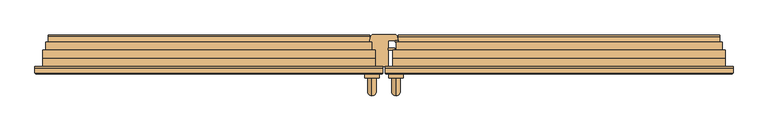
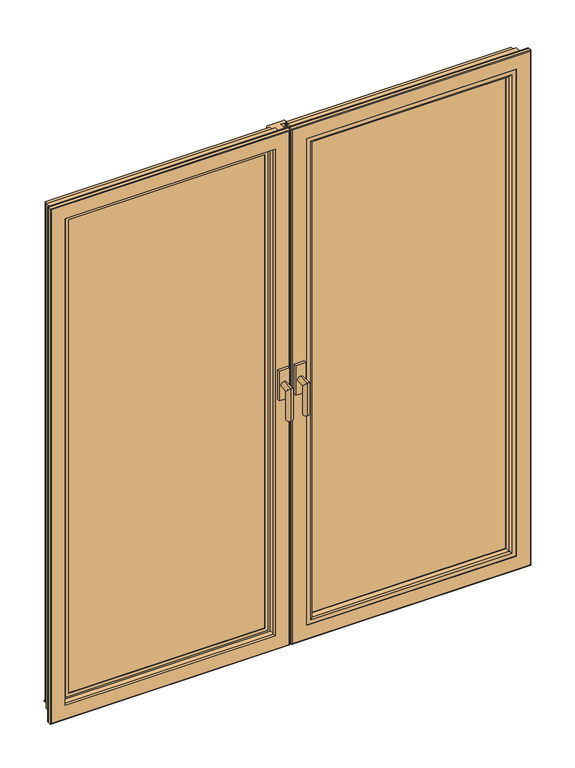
"""IFC4 building model written with IfcOpenShell, lengths in millimetres: door geometry, Doors_GEALAN_S9000_Double-Vent-Door : Doors_GEALAN_S9000_Double-Vent-Door."""

from ifc_helpers import new_model, si_unit, point, frame, frame_2d, origin, place, context, project, spatial, polyline, circle_curve, ellipse_curve, trimmed, segment, composite_curve, outline, extrude, source, transform, mapped, element, save
from ifc_brep_helpers import plane_surface, cylinder_surface, advanced_brep


def door_6dfe5dd6(model_context):
    return source(origin(), model_context, "Body", "SolidModel", [
        advanced_brep(
        [(31.0, -61.0, 1071.5), (31.0, -61.0, 1048.5), (31.0, -107.5, 1071.5), (31.0, -84.5, 1048.5), (31.0, -107.5, 943.0), (31.0, -84.5, 943.0)],
        [
            (0, 1, circle_curve(frame((31.0, -61.0, 1060.0), z_axis=(0.0, 1.0, 0.0), x_axis=(0.0, 0.0, -1.0)), 11.5)),
            (1, 0, circle_curve(frame((31.0, -61.0, 1060.0), z_axis=(0.0, 1.0, 0.0), x_axis=(0.0, 0.0, -1.0)), 11.5)),
            (0, 2),
            (2, 3, ellipse_curve(frame((31.0, -96.0, 1060.0), z_axis=(0.0, 0.7071067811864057, 0.7071067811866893), x_axis=(0.0, 0.7071067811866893, -0.7071067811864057)), 16.263456, 11.5)),
            (3, 1),
            (3, 2, ellipse_curve(frame((31.0, -96.0, 1060.0), z_axis=(0.0, 0.7071067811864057, 0.7071067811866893), x_axis=(0.0, 0.7071067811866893, -0.7071067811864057)), 16.263456, 11.5)),
            (4, 5, circle_curve(frame((31.0, -96.0, 943.0), z_axis=(0.0, 0.0, -1.0), x_axis=(0.0, 1.0, 0.0)), 11.5)),
            (5, 4, circle_curve(frame((31.0, -96.0, 943.0), z_axis=(0.0, 0.0, -1.0), x_axis=(0.0, 1.0, 0.0)), 11.5)),
            (2, 4),
            (5, 3),
        ],
        [
            plane_surface(frame((31.0, -61.0, 1060.0), z_axis=(0.0, 1.0, 0.0), x_axis=(1.0, 0.0, 0.0))),
            cylinder_surface(frame((31.0, -61.0, 1060.0), z_axis=(0.0, 1.0, 0.0), x_axis=(0.0, 0.0, -1.0)), 11.5),
            plane_surface(frame((31.0, -96.0, 943.0), z_axis=(0.0, 0.0, -1.0), x_axis=(1.0, 0.0, 0.0))),
            cylinder_surface(frame((31.0, -96.0, 1060.0), z_axis=(0.0, 0.0, 1.0), x_axis=(0.0, 1.0, 0.0)), 11.5),
        ],
        [
            (0, [[1, 2]]),
            (1, [[-1, 3, 4, 5]]),
            (1, [[-2, -5, 6, -3]]),
            (2, [[7, 8]]),
            (3, [[-4, 9, -8, 10]]),
            (3, [[-6, -10, -7, -9]]),
        ],
    ),
        extrude(outline(polyline([(49.5, -51.0), (49.5, -61.0), (12.5, -61.0), (12.5, -51.0), (49.5, -51.0)])), frame((0.0, 0.0, 1001.0), z_axis=(0.0, 0.0, 1.0), x_axis=(1.0, 0.0, 0.0)), (0.0, 0.0, 1.0), 118.0),
        advanced_brep(
        [(-31.0, -61.0, 1071.5), (-31.0, -61.0, 1048.5), (-31.0, -107.5, 1071.5), (-31.0, -84.5, 1048.5), (-31.0, -107.5, 943.0), (-31.0, -84.5, 943.0)],
        [
            (0, 1, circle_curve(frame((-31.0, -61.0, 1060.0), z_axis=(0.0, 1.0, 0.0), x_axis=(0.0, 0.0, -1.0)), 11.5)),
            (1, 0, circle_curve(frame((-31.0, -61.0, 1060.0), z_axis=(0.0, 1.0, 0.0), x_axis=(0.0, 0.0, -1.0)), 11.5)),
            (0, 2),
            (2, 3, ellipse_curve(frame((-31.0, -96.0, 1060.0), z_axis=(0.0, 0.7071067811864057, 0.7071067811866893), x_axis=(0.0, 0.7071067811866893, -0.7071067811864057)), 16.263456, 11.5)),
            (3, 1),
            (3, 2, ellipse_curve(frame((-31.0, -96.0, 1060.0), z_axis=(0.0, 0.7071067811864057, 0.7071067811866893), x_axis=(0.0, 0.7071067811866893, -0.7071067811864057)), 16.263456, 11.5)),
            (4, 5, circle_curve(frame((-31.0, -96.0, 943.0), z_axis=(0.0, 0.0, -1.0), x_axis=(0.0, 1.0, 0.0)), 11.5)),
            (5, 4, circle_curve(frame((-31.0, -96.0, 943.0), z_axis=(0.0, 0.0, -1.0), x_axis=(0.0, 1.0, 0.0)), 11.5)),
            (2, 4),
            (5, 3),
        ],
        [
            plane_surface(frame((-31.0, -61.0, 1060.0), z_axis=(0.0, 1.0, 0.0), x_axis=(1.0, 0.0, 0.0))),
            cylinder_surface(frame((-31.0, -61.0, 1060.0), z_axis=(0.0, 1.0, 0.0), x_axis=(0.0, 0.0, -1.0)), 11.5),
            plane_surface(frame((-31.0, -96.0, 943.0), z_axis=(0.0, 0.0, -1.0), x_axis=(1.0, 0.0, 0.0))),
            cylinder_surface(frame((-31.0, -96.0, 1060.0), z_axis=(0.0, 0.0, 1.0), x_axis=(0.0, 1.0, 0.0)), 11.5),
        ],
        [
            (0, [[1, 2]]),
            (1, [[-1, 3, 4, 5]]),
            (1, [[-2, -5, 6, -3]]),
            (2, [[7, 8]]),
            (3, [[-4, 9, -8, 10]]),
            (3, [[-6, -10, -7, -9]]),
        ],
    ),
        extrude(outline(polyline([(-12.5, -51.0), (-12.5, -61.0), (-49.5, -61.0), (-49.5, -51.0), (-12.5, -51.0)])), frame((0.0, 0.0, 1001.0), z_axis=(0.0, 0.0, 1.0), x_axis=(1.0, 0.0, 0.0)), (0.0, 0.0, 1.0), 118.0),
        extrude(outline(polyline([(64.0, 13.5), (839.0, 13.5), (839.0, -26.5), (64.0, -26.5), (64.0, 13.5)])), frame((0.0, 0.0, 72.9999998), z_axis=(0.0, 0.0, 1.0), x_axis=(1.0, 0.0, 0.0)), (0.0, 0.0, 1.0), 1916.0),
        extrude(outline(composite_curve([segment(trimmed(circle_curve(frame_2d((44.4032971, 32.7039134)), 4.9967036), [point((45.2682409, 37.6251855))], [point((49.4, 32.7011467))], False, "CARTESIAN"), True, "CONTINUOUS"), segment(polyline([(49.4, 32.7011467), (49.4, 31.2999998), (47.8, 31.2999998), (47.8, 32.7011467)]), True, "CONTINUOUS"), segment(trimmed(circle_curve(frame_2d((44.4, 32.7011467)), 3.4), [point((47.8, 32.7011467))], [point((44.9904038, 36.0494931))], True, "CARTESIAN"), True, "CONTINUOUS"), segment(polyline([(44.9904038, 36.0494931), (31.6600181, 38.3999998), (28.1, 38.3999998), (28.1, 31.7999998)]), True, "CONTINUOUS"), segment(trimmed(circle_curve(frame_2d((27.5, 31.7999998)), 0.6), [point((28.1, 31.7999998))], [point((26.9, 31.7999998))], False, "CARTESIAN"), True, "CONTINUOUS"), segment(polyline([(26.9, 31.7999998), (26.9, 33.0999998), (13.7227037, 33.0999998), (13.7227037, 19.9986183), (-2.1381869, 19.9986183), (-2.1381869, 31.9986183), (10.0618131, 31.9986183), (10.0618131, 34.6999998), (21.2, 34.6999998), (21.2, 39.9999998), (31.7562557, 39.9999998), (45.2682409, 37.6251855)]), True, "CONTINUOUS")], self_intersect=False)), frame((37.0, 0.0, 0.0), z_axis=(1.0, 0.0, 0.0), x_axis=(0.0, 1.0, 0.0)), (0.0, 0.0, 1.0), 829.0),
        extrude(outline(polyline([(86.7999998, 77.8), (86.7999998, 825.2), (1975.1999998, 825.2), (1975.1999998, 77.8), (86.7999998, 77.8)]), holes=[polyline([(1967.9999998, 85.0), (1967.9999998, 818.0), (93.9999998, 818.0), (93.9999998, 85.0), (1967.9999998, 85.0)])]), frame((0.0, 13.5, 0.0), z_axis=(0.0, 1.0, 0.0), x_axis=(0.0, 0.0, 1.0)), (0.0, 0.0, 1.0), 3.0),
        extrude(outline(polyline([(82.4987826, 829.5012172), (1979.5012169, 829.5012172), (1979.5012169, 73.4987828), (82.4987826, 73.4987828), (82.4987826, 829.5012172)]), holes=[polyline([(93.9987826, 84.9987828), (1968.0012169, 84.9987828), (1968.0012169, 818.0012172), (93.9987826, 818.0012172), (93.9987826, 84.9987828)])]), frame((0.0, -29.0, 0.0), z_axis=(0.0, 1.0, 0.0), x_axis=(0.0, 0.0, 1.0)), (0.0, 0.0, 1.0), 2.5),
        extrude(outline(polyline([(11.9999998, 3.0), (11.9999998, 900.0), (2049.9999998, 900.0), (2049.9999998, 3.0), (11.9999998, 3.0)]), holes=[polyline([(2041.9999998, 11.0), (2041.9999998, 892.0), (19.9999998, 892.0), (19.9999998, 11.0), (2041.9999998, 11.0)])]), frame((0.0, -36.0, 0.0), z_axis=(0.0, 1.0, 0.0), x_axis=(0.0, 0.0, 1.0)), (0.0, 0.0, 1.0), 3.5),
        advanced_brep(
        [(76.6543275, 31.5, 1976.3456723), (82.4498824, 27.0529143, 1970.5501173), (82.4498824, 27.0529143, 91.4498822), (76.6543275, 31.5, 85.6543272), (31.0, 10.0, 2021.9999998), (31.0, 31.5, 2021.9999998), (31.0, 31.5, 39.9999998), (31.0, 10.0, 39.9999998), (23.0, -10.0, 2029.9999998), (23.0, 10.0, 2029.9999998), (23.0, 10.0, 31.9999998), (23.0, -10.0, 31.9999998), (54.9, 2.4998794, 1998.0999998), (54.9, -10.0, 1998.0999998), (54.9, -10.0, 63.8999998), (54.9, 2.4998794, 63.8999998), (51.9241825, 16.5, 2001.0758172), (51.9241825, 16.5, 60.9241823), (85.0, 17.535746, 1967.9999998), (85.0, 16.5, 1967.9999998), (85.0, 16.5, 93.9999998), (85.0, 17.535746, 93.9999998), (820.5501176, 27.0529143, 91.4498822), (826.3456725, 31.5, 85.6543272), (872.0, 31.5, 39.9999998), (872.0, 10.0, 39.9999998), (880.0, 10.0, 31.9999998), (880.0, -10.0, 31.9999998), (848.1, -10.0, 63.8999998), (848.1, 2.4998794, 63.8999998), (851.0758175, 16.5, 60.9241823), (818.0, 16.5, 93.9999998), (818.0, 17.535746, 93.9999998), (820.5501176, 27.0529143, 1970.5501173), (826.3456725, 31.5, 1976.3456723), (872.0, 31.5, 2021.9999998), (872.0, 10.0, 2021.9999998), (880.0, 10.0, 2029.9999998), (880.0, -10.0, 2029.9999998), (848.1, -10.0, 1998.0999998), (848.1, 2.4998794, 1998.0999998), (851.0758175, 16.5, 2001.0758172), (818.0, 16.5, 1967.9999998), (818.0, 17.535746, 1967.9999998)],
        [
            (0, 1, ellipse_curve(frame((76.6543275, 25.5, 1976.3456723), z_axis=(-0.7071067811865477, 0.0, -0.7071067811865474), x_axis=(-0.7071067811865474, 0.0, 0.7071067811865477)), 8.4852814, 6.0)),
            (1, 2),
            (2, 3, ellipse_curve(frame((76.6543275, 25.5, 85.6543272), z_axis=(-0.7071067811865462, 0.0, 0.707106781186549), x_axis=(0.7071067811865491, 0.0, 0.7071067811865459)), 8.4852814, 6.0)),
            (3, 0),
            (4, 5),
            (5, 6),
            (6, 7),
            (7, 4),
            (8, 9),
            (9, 10),
            (10, 11),
            (11, 8),
            (12, 13),
            (13, 14),
            (14, 15),
            (15, 12),
            (16, 12),
            (15, 17),
            (17, 16),
            (18, 19),
            (19, 20),
            (20, 21),
            (21, 18),
            (1, 18),
            (21, 2),
            (2, 22),
            (22, 23, ellipse_curve(frame((826.3456725, 25.5, 85.6543272), z_axis=(-0.7071067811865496, 0.0, -0.7071067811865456), x_axis=(-0.7071067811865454, 0.0, 0.7071067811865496)), 8.4852814, 6.0)),
            (23, 3),
            (6, 24),
            (24, 25),
            (25, 7),
            (10, 26),
            (26, 27),
            (27, 11),
            (14, 28),
            (28, 29),
            (29, 15),
            (29, 30),
            (30, 17),
            (20, 31),
            (31, 32),
            (32, 21),
            (32, 22),
            (22, 33),
            (33, 34, ellipse_curve(frame((826.3456725, 25.5, 1976.3456723), z_axis=(0.7071067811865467, 0.0, -0.7071067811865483), x_axis=(-0.7071067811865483, 0.0, -0.7071067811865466)), 8.4852814, 6.0)),
            (34, 23),
            (24, 35),
            (35, 36),
            (36, 25),
            (26, 37),
            (37, 38),
            (38, 27),
            (28, 39),
            (39, 40),
            (40, 29),
            (40, 41),
            (41, 30),
            (31, 42),
            (42, 43),
            (43, 32),
            (43, 33),
            (33, 1),
            (0, 34),
            (5, 35),
            (4, 36),
            (9, 37),
            (8, 38),
            (13, 39),
            (12, 40),
            (16, 41),
            (19, 42),
            (18, 43),
        ],
        [
            cylinder_surface(frame((76.6543275, 25.5, 2049.9999998), z_axis=(0.0, 0.0, 1.0), x_axis=(0.0, 1.0, 0.0)), 6.0),
            plane_surface(frame((31.0, 31.5, 2021.9999998), z_axis=(-1.0, 0.0, 0.0), x_axis=(0.0, 0.0, -1.0))),
            plane_surface(frame((23.0, 10.0, 2029.9999998), z_axis=(-1.0, 0.0, 0.0), x_axis=(0.0, 0.0, -1.0))),
            plane_surface(frame((54.9, -10.0, 1998.0999998), z_axis=(1.0, 0.0, 0.0), x_axis=(0.0, 0.0, -1.0))),
            plane_surface(frame((54.9, 2.4998794, 1998.0999998), z_axis=(0.9781476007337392, 0.20791169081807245, 0.0), x_axis=(0.0, 0.0, -1.0))),
            plane_surface(frame((85.0, 16.5, 1967.9999998), z_axis=(1.0, 0.0, 0.0), x_axis=(0.0, 0.0, -1.0))),
            plane_surface(frame((85.0, 17.535746, 1967.9999998), z_axis=(0.9659258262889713, 0.2588190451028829, 0.0), x_axis=(0.0, 0.0, -1.0))),
            cylinder_surface(frame((3.0, 25.5, 85.6543272), z_axis=(-1.0, 0.0, 0.0), x_axis=(0.0, 1.0, 0.0)), 6.0),
            plane_surface(frame((31.0, 31.5, 39.9999998), z_axis=(0.0, 0.0, -1.0), x_axis=(1.0, 0.0, 0.0))),
            plane_surface(frame((23.0, 10.0, 31.9999998), z_axis=(0.0, 0.0, -1.0), x_axis=(1.0, 0.0, 0.0))),
            plane_surface(frame((54.9, -10.0, 63.8999998), z_axis=(0.0, 0.0, 1.0), x_axis=(1.0, 0.0, 0.0))),
            plane_surface(frame((54.9, 2.4998794, 63.8999998), z_axis=(0.0, 0.20791169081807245, 0.9781476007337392), x_axis=(1.0, 0.0, 0.0))),
            plane_surface(frame((85.0, 16.5, 93.9999998), z_axis=(0.0, 0.0, 1.0), x_axis=(1.0, 0.0, 0.0))),
            plane_surface(frame((85.0, 17.535746, 93.9999998), z_axis=(0.0, 0.2588190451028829, 0.9659258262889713), x_axis=(1.0, 0.0, 0.0))),
            cylinder_surface(frame((826.3456725, 25.5, 11.9999998), z_axis=(0.0, 0.0, -1.0), x_axis=(0.0, 1.0, 0.0)), 6.0),
            plane_surface(frame((872.0, 31.5, 39.9999998), z_axis=(1.0, 0.0, 0.0), x_axis=(0.0, 0.0, 1.0))),
            plane_surface(frame((880.0, 10.0, 31.9999998), z_axis=(1.0, 0.0, 0.0), x_axis=(0.0, 0.0, 1.0))),
            plane_surface(frame((848.1, -10.0, 63.8999998), z_axis=(-1.0, 0.0, 0.0), x_axis=(0.0, 0.0, 1.0))),
            plane_surface(frame((848.1, 2.4998794, 63.8999998), z_axis=(-0.9781476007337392, 0.20791169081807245, 0.0), x_axis=(0.0, 0.0, 1.0))),
            plane_surface(frame((818.0, 16.5, 93.9999998), z_axis=(-1.0, 0.0, 0.0), x_axis=(0.0, 0.0, 1.0))),
            plane_surface(frame((818.0, 17.535746, 93.9999998), z_axis=(-0.9659258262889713, 0.2588190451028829, 0.0), x_axis=(0.0, 0.0, 1.0))),
            cylinder_surface(frame((900.0, 25.5, 1976.3456723), z_axis=(1.0, 0.0, 0.0), x_axis=(0.0, 1.0, 0.0)), 6.0),
            plane_surface(frame((826.3456725, 31.5, 1976.3456723), z_axis=(0.0, 1.0, 0.0), x_axis=(-1.0, 0.0, 0.0))),
            plane_surface(frame((872.0, 31.5, 2021.9999998), z_axis=(0.0, 0.0, 1.0), x_axis=(-1.0, 0.0, 0.0))),
            plane_surface(frame((872.0, 10.0, 2021.9999998), z_axis=(0.0, 1.0, 0.0), x_axis=(-1.0, 0.0, 0.0))),
            plane_surface(frame((880.0, 10.0, 2029.9999998), z_axis=(0.0, 0.0, 1.0), x_axis=(-1.0, 0.0, 0.0))),
            plane_surface(frame((880.0, -10.0, 2029.9999998), z_axis=(0.0, -1.0, 0.0), x_axis=(-1.0, 0.0, 0.0))),
            plane_surface(frame((848.1, -10.0, 1998.0999998), z_axis=(0.0, 0.0, -1.0), x_axis=(-1.0, 0.0, 0.0))),
            plane_surface(frame((848.1, 2.4998794, 1998.0999998), z_axis=(0.0, 0.20791169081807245, -0.9781476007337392), x_axis=(-1.0, 0.0, 0.0))),
            plane_surface(frame((819.0, 16.5, 1968.9999998), z_axis=(0.0, -1.0, 0.0), x_axis=(-1.0, 0.0, 0.0))),
            plane_surface(frame((818.0, 16.5, 1967.9999998), z_axis=(0.0, 0.0, -1.0), x_axis=(-1.0, 0.0, 0.0))),
            plane_surface(frame((818.0, 17.535746, 1967.9999998), z_axis=(0.0, 0.2588190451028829, -0.9659258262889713), x_axis=(-1.0, 0.0, 0.0))),
        ],
        [
            (0, [[1, 2, 3, 4]]),
            (1, [[5, 6, 7, 8]]),
            (2, [[9, 10, 11, 12]]),
            (3, [[13, 14, 15, 16]]),
            (4, [[17, -16, 18, 19]]),
            (5, [[20, 21, 22, 23]]),
            (6, [[24, -23, 25, -2]]),
            (7, [[-3, 26, 27, 28]]),
            (8, [[-7, 29, 30, 31]]),
            (9, [[-11, 32, 33, 34]]),
            (10, [[-15, 35, 36, 37]]),
            (11, [[-18, -37, 38, 39]]),
            (12, [[-22, 40, 41, 42]]),
            (13, [[-25, -42, 43, -26]]),
            (14, [[-27, 44, 45, 46]]),
            (15, [[-30, 47, 48, 49]]),
            (16, [[-33, 50, 51, 52]]),
            (17, [[-36, 53, 54, 55]]),
            (18, [[-38, -55, 56, 57]]),
            (19, [[-41, 58, 59, 60]]),
            (20, [[-43, -60, 61, -44]]),
            (21, [[-45, 62, -1, 63]]),
            (22, [[64, -47, -29, -6], [-28, -46, -63, -4]]),
            (23, [[-48, -64, -5, 65]]),
            (24, [[66, -50, -32, -10], [-31, -49, -65, -8]]),
            (25, [[-51, -66, -9, 67]]),
            (26, [[-34, -52, -67, -12], [68, -53, -35, -14]]),
            (27, [[-54, -68, -13, 69]]),
            (28, [[-56, -69, -17, 70]]),
            (29, [[-39, -57, -70, -19], [71, -58, -40, -21]]),
            (30, [[-59, -71, -20, 72]]),
            (31, [[-61, -72, -24, -62]]),
        ],
    ),
        advanced_brep(
        [(59.0, -39.75, 1993.9999998), (59.0, -51.0, 1993.9999998), (59.0, -51.0, 67.9999998), (59.0, -39.75, 67.9999998), (54.9, -10.0, 1998.0999998), (54.9, -39.75, 1998.0999998), (54.9, -39.75, 63.8999998), (54.9, -10.0, 63.8999998), (23.0, -36.0, 2029.9999998), (23.0, -10.0, 2029.9999998), (23.0, -10.0, 31.9999998), (23.0, -36.0, 31.9999998), (3.0, -48.5, 2049.9999998), (3.0, -36.0, 2049.9999998), (3.0, -36.0, 11.9999998), (3.0, -48.5, 11.9999998), (5.5, -51.0, 2047.4999998), (5.5, -51.0, 14.4999998), (844.0, -51.0, 67.9999998), (844.0, -39.75, 67.9999998), (848.1, -39.75, 63.8999998), (848.1, -10.0, 63.8999998), (880.0, -10.0, 31.9999998), (880.0, -36.0, 31.9999998), (900.0, -36.0, 11.9999998), (900.0, -48.5, 11.9999998), (897.5, -51.0, 14.4999998), (844.0, -51.0, 1993.9999998), (844.0, -39.75, 1993.9999998), (848.1, -39.75, 1998.0999998), (848.1, -10.0, 1998.0999998), (880.0, -10.0, 2029.9999998), (880.0, -36.0, 2029.9999998), (900.0, -36.0, 2049.9999998), (900.0, -48.5, 2049.9999998), (897.5, -51.0, 2047.4999998)],
        [
            (0, 1),
            (1, 2),
            (2, 3),
            (3, 0),
            (4, 5),
            (5, 6),
            (6, 7),
            (7, 4),
            (8, 9),
            (9, 10),
            (10, 11),
            (11, 8),
            (12, 13),
            (13, 14),
            (14, 15),
            (15, 12),
            (16, 12, ellipse_curve(frame((5.5, -48.5, 2047.4999998), z_axis=(-0.7071067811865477, 0.0, -0.7071067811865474), x_axis=(-0.7071067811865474, 0.0, 0.7071067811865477)), 3.5355339, 2.5)),
            (15, 17, ellipse_curve(frame((5.5, -48.5, 14.4999998), z_axis=(-0.7071067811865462, 0.0, 0.707106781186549), x_axis=(0.7071067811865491, 0.0, 0.7071067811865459)), 3.5355339, 2.5)),
            (17, 16),
            (2, 18),
            (18, 19),
            (19, 3),
            (6, 20),
            (20, 21),
            (21, 7),
            (10, 22),
            (22, 23),
            (23, 11),
            (14, 24),
            (24, 25),
            (25, 15),
            (25, 26, ellipse_curve(frame((897.5, -48.5, 14.4999998), z_axis=(-0.7071067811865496, 0.0, -0.7071067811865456), x_axis=(-0.7071067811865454, 0.0, 0.7071067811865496)), 3.5355339, 2.5)),
            (26, 17),
            (18, 27),
            (27, 28),
            (28, 19),
            (20, 29),
            (29, 30),
            (30, 21),
            (22, 31),
            (31, 32),
            (32, 23),
            (24, 33),
            (33, 34),
            (34, 25),
            (34, 35, ellipse_curve(frame((897.5, -48.5, 2047.4999998), z_axis=(0.7071067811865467, 0.0, -0.7071067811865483), x_axis=(-0.7071067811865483, 0.0, -0.7071067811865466)), 3.5355339, 2.5)),
            (35, 26),
            (35, 16),
            (1, 27),
            (0, 28),
            (5, 29),
            (4, 30),
            (9, 31),
            (8, 32),
            (13, 33),
            (12, 34),
        ],
        [
            plane_surface(frame((59.0, -51.0, 1993.9999998), z_axis=(1.0, 0.0, 0.0), x_axis=(0.0, 0.0, -1.0))),
            plane_surface(frame((54.9, -39.75, 1998.0999998), z_axis=(1.0, 0.0, 0.0), x_axis=(0.0, 0.0, -1.0))),
            plane_surface(frame((23.0, -10.0, 2029.9999998), z_axis=(-1.0, 0.0, 0.0), x_axis=(0.0, 0.0, -1.0))),
            plane_surface(frame((3.0, -36.0, 2049.9999998), z_axis=(-1.0, 0.0, 0.0), x_axis=(0.0, 0.0, -1.0))),
            cylinder_surface(frame((5.5, -48.5, 2049.9999998), z_axis=(0.0, 0.0, 1.0), x_axis=(0.0, -1.0, 0.0)), 2.5),
            plane_surface(frame((59.0, -51.0, 67.9999998), z_axis=(0.0, 0.0, 1.0), x_axis=(1.0, 0.0, 0.0))),
            plane_surface(frame((54.9, -39.75, 63.8999998), z_axis=(0.0, 0.0, 1.0), x_axis=(1.0, 0.0, 0.0))),
            plane_surface(frame((23.0, -10.0, 31.9999998), z_axis=(0.0, 0.0, -1.0), x_axis=(1.0, 0.0, 0.0))),
            plane_surface(frame((3.0, -36.0, 11.9999998), z_axis=(0.0, 0.0, -1.0), x_axis=(1.0, 0.0, 0.0))),
            cylinder_surface(frame((3.0, -48.5, 14.4999998), z_axis=(-1.0, 0.0, 0.0), x_axis=(0.0, -1.0, 0.0)), 2.5),
            plane_surface(frame((844.0, -51.0, 67.9999998), z_axis=(-1.0, 0.0, 0.0), x_axis=(0.0, 0.0, 1.0))),
            plane_surface(frame((848.1, -39.75, 63.8999998), z_axis=(-1.0, 0.0, 0.0), x_axis=(0.0, 0.0, 1.0))),
            plane_surface(frame((880.0, -10.0, 31.9999998), z_axis=(1.0, 0.0, 0.0), x_axis=(0.0, 0.0, 1.0))),
            plane_surface(frame((900.0, -36.0, 11.9999998), z_axis=(1.0, 0.0, 0.0), x_axis=(0.0, 0.0, 1.0))),
            cylinder_surface(frame((897.5, -48.5, 11.9999998), z_axis=(0.0, 0.0, -1.0), x_axis=(0.0, -1.0, 0.0)), 2.5),
            plane_surface(frame((897.5, -51.0, 2047.4999998), z_axis=(0.0, -1.0, 0.0), x_axis=(-1.0, 0.0, 0.0))),
            plane_surface(frame((844.0, -51.0, 1993.9999998), z_axis=(0.0, 0.0, -1.0), x_axis=(-1.0, 0.0, 0.0))),
            plane_surface(frame((844.0, -39.75, 1993.9999998), z_axis=(0.0, 1.0, 0.0), x_axis=(-1.0, 0.0, 0.0))),
            plane_surface(frame((848.1, -39.75, 1998.0999998), z_axis=(0.0, 0.0, -1.0), x_axis=(-1.0, 0.0, 0.0))),
            plane_surface(frame((848.1, -10.0, 1998.0999998), z_axis=(0.0, 1.0, 0.0), x_axis=(-1.0, 0.0, 0.0))),
            plane_surface(frame((880.0, -10.0, 2029.9999998), z_axis=(0.0, 0.0, 1.0), x_axis=(-1.0, 0.0, 0.0))),
            plane_surface(frame((899.0, -36.0, 2048.9999998), z_axis=(0.0, 1.0, 0.0), x_axis=(-1.0, 0.0, 0.0))),
            plane_surface(frame((900.0, -36.0, 2049.9999998), z_axis=(0.0, 0.0, 1.0), x_axis=(-1.0, 0.0, 0.0))),
            cylinder_surface(frame((900.0, -48.5, 2047.4999998), z_axis=(1.0, 0.0, 0.0), x_axis=(0.0, -1.0, 0.0)), 2.5),
        ],
        [
            (0, [[1, 2, 3, 4]]),
            (1, [[5, 6, 7, 8]]),
            (2, [[9, 10, 11, 12]]),
            (3, [[13, 14, 15, 16]]),
            (4, [[17, -16, 18, 19]]),
            (5, [[-3, 20, 21, 22]]),
            (6, [[-7, 23, 24, 25]]),
            (7, [[-11, 26, 27, 28]]),
            (8, [[-15, 29, 30, 31]]),
            (9, [[-18, -31, 32, 33]]),
            (10, [[-21, 34, 35, 36]]),
            (11, [[-24, 37, 38, 39]]),
            (12, [[-27, 40, 41, 42]]),
            (13, [[-30, 43, 44, 45]]),
            (14, [[-32, -45, 46, 47]]),
            (15, [[-33, -47, 48, -19], [49, -34, -20, -2]]),
            (16, [[-35, -49, -1, 50]]),
            (17, [[51, -37, -23, -6], [-22, -36, -50, -4]]),
            (18, [[-38, -51, -5, 52]]),
            (19, [[53, -40, -26, -10], [-25, -39, -52, -8]]),
            (20, [[-41, -53, -9, 54]]),
            (21, [[55, -43, -29, -14], [-28, -42, -54, -12]]),
            (22, [[-44, -55, -13, 56]]),
            (23, [[-46, -56, -17, -48]]),
        ],
    ),
        advanced_brep(
        [(81.1040168, -45.0529143, 1971.8959829), (75.3084619, -49.5, 1977.6915379), (75.3084619, -49.5, 84.3084616), (81.1040168, -45.0529143, 90.1040166), (84.9987828, -30.5174497, 1968.0012169), (84.9987828, -30.5174497, 93.9987826), (84.9987828, -29.0, 1968.0012169), (84.9987828, -29.0, 93.9987826), (71.8567747, -34.0, 1981.143225), (73.1965207, -29.0, 1979.803479), (73.1965207, -29.0, 82.1965205), (71.8567747, -34.0, 80.8567745), (59.0, -34.0, 1993.9999998), (59.0, -34.0, 67.9999998), (59.0, -49.5, 67.9999998), (59.0, -49.5, 1993.9999998), (827.6915381, -49.5, 84.3084616), (821.8959832, -45.0529143, 90.1040166), (818.0012172, -30.5174497, 93.9987826), (818.0012172, -29.0, 93.9987826), (829.8034793, -29.0, 82.1965205), (831.1432253, -34.0, 80.8567745), (844.0, -34.0, 67.9999998), (844.0, -49.5, 67.9999998), (827.6915381, -49.5, 1977.6915379), (821.8959832, -45.0529143, 1971.8959829), (818.0012172, -30.5174497, 1968.0012169), (818.0012172, -29.0, 1968.0012169), (829.8034793, -29.0, 1979.803479), (831.1432253, -34.0, 1981.143225), (844.0, -34.0, 1993.9999998), (844.0, -49.5, 1993.9999998)],
        [
            (0, 1, ellipse_curve(frame((75.3084619, -43.5, 1977.6915379), z_axis=(-0.7071067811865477, 0.0, -0.7071067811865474), x_axis=(-0.7071067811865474, 0.0, 0.7071067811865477)), 8.4852814, 6.0)),
            (1, 2),
            (2, 3, ellipse_curve(frame((75.3084619, -43.5, 84.3084616), z_axis=(-0.7071067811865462, 0.0, 0.707106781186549), x_axis=(0.7071067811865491, 0.0, 0.7071067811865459)), 8.4852814, 6.0)),
            (3, 0),
            (4, 0),
            (3, 5),
            (5, 4),
            (6, 4),
            (5, 7),
            (7, 6),
            (8, 9),
            (9, 10),
            (10, 11),
            (11, 8),
            (12, 13),
            (13, 14),
            (14, 15),
            (15, 12),
            (2, 16),
            (16, 17, ellipse_curve(frame((827.6915381, -43.5, 84.3084616), z_axis=(-0.7071067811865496, 0.0, -0.7071067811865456), x_axis=(-0.7071067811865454, 0.0, 0.7071067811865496)), 8.4852814, 6.0)),
            (17, 3),
            (17, 18),
            (18, 5),
            (18, 19),
            (19, 7),
            (10, 20),
            (20, 21),
            (21, 11),
            (13, 22),
            (22, 23),
            (23, 14),
            (16, 24),
            (24, 25, ellipse_curve(frame((827.6915381, -43.5, 1977.6915379), z_axis=(0.7071067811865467, 0.0, -0.7071067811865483), x_axis=(-0.7071067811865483, 0.0, -0.7071067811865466)), 8.4852814, 6.0)),
            (25, 17),
            (25, 26),
            (26, 18),
            (26, 27),
            (27, 19),
            (20, 28),
            (28, 29),
            (29, 21),
            (22, 30),
            (30, 31),
            (31, 23),
            (24, 1),
            (0, 25),
            (4, 26),
            (6, 27),
            (9, 28),
            (8, 29),
            (12, 30),
            (15, 31),
        ],
        [
            cylinder_surface(frame((75.3084619, -43.5, 2049.9999998), z_axis=(0.0, 0.0, 1.0), x_axis=(0.9659258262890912, -0.2588190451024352, 0.0)), 6.0),
            plane_surface(frame((81.1040168, -45.0529143, 1971.8959829), z_axis=(0.9659258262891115, -0.25881904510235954, 0.0), x_axis=(0.0, 0.0, -1.0))),
            plane_surface(frame((84.9987828, -30.5174497, 1968.0012169), z_axis=(1.0, 0.0, 0.0), x_axis=(0.0, 0.0, -1.0))),
            plane_surface(frame((73.1965207, -29.0, 1979.803479), z_axis=(-0.9659258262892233, 0.2588190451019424, 0.0), x_axis=(0.0, 0.0, -1.0))),
            plane_surface(frame((59.0, -48.5, 1993.9999998), z_axis=(-1.0, 0.0, 0.0), x_axis=(0.0, 0.0, -1.0))),
            cylinder_surface(frame((3.0, -43.5, 84.3084616), z_axis=(-1.0, 0.0, 0.0), x_axis=(0.0, -0.2588190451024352, 0.9659258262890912)), 6.0),
            plane_surface(frame((81.1040168, -45.0529143, 90.1040166), z_axis=(0.0, -0.25881904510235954, 0.9659258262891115), x_axis=(1.0, 0.0, 0.0))),
            plane_surface(frame((84.9987828, -30.5174497, 93.9987826), z_axis=(0.0, 0.0, 1.0), x_axis=(1.0, 0.0, 0.0))),
            plane_surface(frame((73.1965207, -29.0, 82.1965205), z_axis=(0.0, 0.2588190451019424, -0.9659258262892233), x_axis=(1.0, 0.0, 0.0))),
            plane_surface(frame((59.0, -48.5, 67.9999998), z_axis=(0.0, 0.0, -1.0), x_axis=(1.0, 0.0, 0.0))),
            cylinder_surface(frame((827.6915381, -43.5, 11.9999998), z_axis=(0.0, 0.0, -1.0), x_axis=(-0.9659258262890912, -0.2588190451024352, 0.0)), 6.0),
            plane_surface(frame((821.8959832, -45.0529143, 90.1040166), z_axis=(-0.9659258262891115, -0.25881904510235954, 0.0), x_axis=(0.0, 0.0, 1.0))),
            plane_surface(frame((818.0012172, -30.5174497, 93.9987826), z_axis=(-1.0, 0.0, 0.0), x_axis=(0.0, 0.0, 1.0))),
            plane_surface(frame((829.8034793, -29.0, 82.1965205), z_axis=(0.9659258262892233, 0.2588190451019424, 0.0), x_axis=(0.0, 0.0, 1.0))),
            plane_surface(frame((844.0, -48.5, 67.9999998), z_axis=(1.0, 0.0, 0.0), x_axis=(0.0, 0.0, 1.0))),
            cylinder_surface(frame((900.0, -43.5, 1977.6915379), z_axis=(1.0, 0.0, 0.0), x_axis=(0.0, -0.2588190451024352, -0.9659258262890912)), 6.0),
            plane_surface(frame((821.8959832, -45.0529143, 1971.8959829), z_axis=(0.0, -0.25881904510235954, -0.9659258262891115), x_axis=(-1.0, 0.0, 0.0))),
            plane_surface(frame((818.0012172, -30.5174497, 1968.0012169), z_axis=(0.0, 0.0, -1.0), x_axis=(-1.0, 0.0, 0.0))),
            plane_surface(frame((818.0012172, -29.0, 1968.0012169), z_axis=(0.0, 1.0, 0.0), x_axis=(-1.0, 0.0, 0.0))),
            plane_surface(frame((829.8034793, -29.0, 1979.803479), z_axis=(0.0, 0.2588190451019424, 0.9659258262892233), x_axis=(-1.0, 0.0, 0.0))),
            plane_surface(frame((831.1432253, -34.0, 1981.143225), z_axis=(0.0, 1.0, 0.0), x_axis=(-1.0, 0.0, 0.0))),
            plane_surface(frame((844.0, -48.5, 1993.9999998), z_axis=(0.0, 0.0, 1.0), x_axis=(-1.0, 0.0, 0.0))),
            plane_surface(frame((844.0, -49.5, 1993.9999998), z_axis=(0.0, -1.0, 0.0), x_axis=(-1.0, 0.0, 0.0))),
        ],
        [
            (0, [[1, 2, 3, 4]]),
            (1, [[5, -4, 6, 7]]),
            (2, [[8, -7, 9, 10]]),
            (3, [[11, 12, 13, 14]]),
            (4, [[15, 16, 17, 18]]),
            (5, [[-3, 19, 20, 21]]),
            (6, [[-6, -21, 22, 23]]),
            (7, [[-9, -23, 24, 25]]),
            (8, [[-13, 26, 27, 28]]),
            (9, [[-16, 29, 30, 31]]),
            (10, [[-20, 32, 33, 34]]),
            (11, [[-22, -34, 35, 36]]),
            (12, [[-24, -36, 37, 38]]),
            (13, [[-27, 39, 40, 41]]),
            (14, [[-30, 42, 43, 44]]),
            (15, [[-33, 45, -1, 46]]),
            (16, [[-35, -46, -5, 47]]),
            (17, [[-37, -47, -8, 48]]),
            (18, [[49, -39, -26, -12], [-25, -38, -48, -10]]),
            (19, [[-40, -49, -11, 50]]),
            (20, [[51, -42, -29, -15], [-28, -41, -50, -14]]),
            (21, [[-43, -51, -18, 52]]),
            (22, [[-31, -44, -52, -17], [-45, -32, -19, -2]]),
        ],
    ),
        extrude(outline(polyline([(-839.0, 13.5), (-64.0, 13.5), (-64.0, -26.5), (-839.0, -26.5), (-839.0, 13.5)])), frame((0.0, 0.0, 72.9999998), z_axis=(0.0, 0.0, 1.0), x_axis=(1.0, 0.0, 0.0)), (0.0, 0.0, 1.0), 1916.0),
        extrude(outline(composite_curve([segment(trimmed(circle_curve(frame_2d((44.4032971, 32.7039134)), 4.9967036), [point((45.2682409, 37.6251855))], [point((49.4, 32.7011467))], False, "CARTESIAN"), True, "CONTINUOUS"), segment(polyline([(49.4, 32.7011467), (49.4, 31.2999998), (47.8, 31.2999998), (47.8, 32.7011467)]), True, "CONTINUOUS"), segment(trimmed(circle_curve(frame_2d((44.4, 32.7011467)), 3.4), [point((47.8, 32.7011467))], [point((44.9904038, 36.0494931))], True, "CARTESIAN"), True, "CONTINUOUS"), segment(polyline([(44.9904038, 36.0494931), (31.6600181, 38.3999998), (28.1, 38.3999998), (28.1, 31.7999998)]), True, "CONTINUOUS"), segment(trimmed(circle_curve(frame_2d((27.5, 31.7999998)), 0.6), [point((28.1, 31.7999998))], [point((26.9, 31.7999998))], False, "CARTESIAN"), True, "CONTINUOUS"), segment(polyline([(26.9, 31.7999998), (26.9, 33.0999998), (13.7227037, 33.0999998), (13.7227037, 19.9986183), (-2.1381869, 19.9986183), (-2.1381869, 31.9986183), (10.0618131, 31.9986183), (10.0618131, 34.6999998), (21.2, 34.6999998), (21.2, 39.9999998), (31.7562557, 39.9999998), (45.2682409, 37.6251855)]), True, "CONTINUOUS")], self_intersect=False)), frame((-866.0, 0.0, 0.0), z_axis=(1.0, 0.0, 0.0), x_axis=(0.0, 1.0, 0.0)), (0.0, 0.0, 1.0), 829.0),
        extrude(outline(polyline([(28.0, 15.1), (28.0, 10.0), (11.0, 10.0), (11.0, 15.1), (28.0, 15.1)])), frame((0.0, 0.0, 19.9999998), z_axis=(0.0, 0.0, 1.0), x_axis=(1.0, 0.0, 0.0)), (0.0, 0.0, 1.0), 1996.0),
        extrude(outline(polyline([(28.4784086, 31.5), (28.4784086, 35.0), (37.2784086, 35.0), (37.2784086, 31.5), (28.4784086, 31.5)])), frame((0.0, 0.0, 19.9999998), z_axis=(0.0, 0.0, 1.0), x_axis=(1.0, 0.0, 0.0)), (0.0, 0.0, 1.0), 1996.0),
        extrude(outline(polyline([(86.7999998, -77.8), (1975.1999998, -77.8), (1975.1999998, -825.2), (86.7999998, -825.2), (86.7999998, -77.8)]), holes=[polyline([(93.9999998, -818.0), (1967.9999998, -818.0), (1967.9999998, -85.0), (93.9999998, -85.0), (93.9999998, -818.0)])]), frame((0.0, 13.5, 0.0), z_axis=(0.0, 1.0, 0.0), x_axis=(0.0, 0.0, 1.0)), (0.0, 0.0, 1.0), 3.0),
        extrude(outline(polyline([(11.9999998, -900.0), (11.9999998, -3.0), (2049.9999998, -3.0), (2049.9999998, -900.0), (11.9999998, -900.0)]), holes=[polyline([(2041.9999998, -892.0), (2041.9999998, -11.0), (19.9999998, -11.0), (19.9999998, -892.0), (2041.9999998, -892.0)])]), frame((0.0, -36.0, 0.0), z_axis=(0.0, 1.0, 0.0), x_axis=(0.0, 0.0, 1.0)), (0.0, 0.0, 1.0), 3.5),
        extrude(outline(polyline([(82.4987826, -73.4987828), (1979.5012169, -73.4987828), (1979.5012169, -829.5012172), (82.4987826, -829.5012172), (82.4987826, -73.4987828)]), holes=[polyline([(93.9987826, -818.0012172), (1968.0012169, -818.0012172), (1968.0012169, -84.9987828), (93.9987826, -84.9987828), (93.9987826, -818.0012172)])]), frame((0.0, -29.0, 0.0), z_axis=(0.0, 1.0, 0.0), x_axis=(0.0, 0.0, 1.0)), (0.0, 0.0, 1.0), 2.5),
        extrude(outline(composite_curve([segment(polyline([(-23.0, -32.5), (-23.0, 10.0), (-31.0, 10.0), (-31.0, 31.3910807), (-37.0, 31.3910807), (-37.0, 35.9208678), (-34.436739, 45.5529143)]), True, "CONTINUOUS"), segment(trimmed(circle_curve(frame_2d((-28.6514149, 44.0133354)), 5.9866751), [point((-34.436739, 45.5529143))], [point((-28.6402381, 50.0))], False, "CARTESIAN"), True, "CONTINUOUS"), segment(polyline([(-28.6402381, 50.0), (28.6552087, 50.0)]), True, "CONTINUOUS"), segment(trimmed(circle_curve(frame_2d((28.6552087, 44.0)), 6.0), [point((28.6552087, 50.0))], [point((34.4507637, 45.5529143))], False, "CARTESIAN"), True, "CONTINUOUS"), segment(polyline([(34.4507637, 45.5529143), (37.2784086, 35.0), (11.0, 35.0), (11.0, -32.5), (-23.0, -32.5)]), True, "CONTINUOUS")], self_intersect=False)), frame((0.0, 0.0, 19.9999998), z_axis=(0.0, 0.0, 1.0), x_axis=(1.0, 0.0, 0.0)), (0.0, 0.0, 1.0), 1996.0),
        advanced_brep(
        [(-826.3456725, 31.5, 1976.3456723), (-820.5501176, 27.0529143, 1970.5501173), (-820.5501176, 27.0529143, 91.4498822), (-826.3456725, 31.5, 85.6543272), (-872.0, 10.0, 2021.9999998), (-872.0, 31.5, 2021.9999998), (-872.0, 31.5, 39.9999998), (-872.0, 10.0, 39.9999998), (-880.0, -10.0, 2029.9999998), (-880.0, 10.0, 2029.9999998), (-880.0, 10.0, 31.9999998), (-880.0, -10.0, 31.9999998), (-848.1, 2.4998794, 1998.0999998), (-848.1, -10.0, 1998.0999998), (-848.1, -10.0, 63.8999998), (-848.1, 2.4998794, 63.8999998), (-851.0758175, 16.5, 2001.0758172), (-851.0758175, 16.5, 60.9241823), (-818.0, 17.535746, 1967.9999998), (-818.0, 16.5, 1967.9999998), (-818.0, 16.5, 93.9999998), (-818.0, 17.535746, 93.9999998), (-82.4498824, 27.0529143, 91.4498822), (-76.6543275, 31.5, 85.6543272), (-31.0, 31.5, 39.9999998), (-31.0, 10.0, 39.9999998), (-23.0, 10.0, 31.9999998), (-23.0, -10.0, 31.9999998), (-54.9, -10.0, 63.8999998), (-54.9, 2.4998794, 63.8999998), (-51.9241825, 16.5, 60.9241823), (-85.0, 16.5, 93.9999998), (-85.0, 17.535746, 93.9999998), (-82.4498824, 27.0529143, 1970.5501173), (-76.6543275, 31.5, 1976.3456723), (-31.0, 31.5, 2021.9999998), (-31.0, 10.0, 2021.9999998), (-23.0, 10.0, 2029.9999998), (-23.0, -10.0, 2029.9999998), (-54.9, -10.0, 1998.0999998), (-54.9, 2.4998794, 1998.0999998), (-51.9241825, 16.5, 2001.0758172), (-85.0, 16.5, 1967.9999998), (-85.0, 17.535746, 1967.9999998)],
        [
            (0, 1, ellipse_curve(frame((-826.3456725, 25.5, 1976.3456723), z_axis=(-0.707106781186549, 0.0, -0.7071067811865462), x_axis=(-0.7071067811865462, 0.0, 0.7071067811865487)), 8.4852814, 6.0)),
            (1, 2),
            (2, 3, ellipse_curve(frame((-826.3456725, 25.5, 85.6543272), z_axis=(-0.7071067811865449, 0.0, 0.70710678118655), x_axis=(0.7071067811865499, 0.0, 0.707106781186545)), 8.4852814, 6.0)),
            (3, 0),
            (4, 5),
            (5, 6),
            (6, 7),
            (7, 4),
            (8, 9),
            (9, 10),
            (10, 11),
            (11, 8),
            (12, 13),
            (13, 14),
            (14, 15),
            (15, 12),
            (16, 12),
            (15, 17),
            (17, 16),
            (18, 19),
            (19, 20),
            (20, 21),
            (21, 18),
            (1, 18),
            (21, 2),
            (2, 22),
            (22, 23, ellipse_curve(frame((-76.6543275, 25.5, 85.6543272), z_axis=(-0.7071067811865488, 0.0, -0.7071067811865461), x_axis=(-0.7071067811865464, 0.0, 0.7071067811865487)), 8.4852814, 6.0)),
            (23, 3),
            (6, 24),
            (24, 25),
            (25, 7),
            (10, 26),
            (26, 27),
            (27, 11),
            (14, 28),
            (28, 29),
            (29, 15),
            (29, 30),
            (30, 17),
            (20, 31),
            (31, 32),
            (32, 21),
            (32, 22),
            (22, 33),
            (33, 34, ellipse_curve(frame((-76.6543275, 25.5, 1976.3456723), z_axis=(0.7071067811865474, 0.0, -0.7071067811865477), x_axis=(-0.7071067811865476, 0.0, -0.7071067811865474)), 8.4852814, 6.0)),
            (34, 23),
            (24, 35),
            (35, 36),
            (36, 25),
            (26, 37),
            (37, 38),
            (38, 27),
            (28, 39),
            (39, 40),
            (40, 29),
            (40, 41),
            (41, 30),
            (31, 42),
            (42, 43),
            (43, 32),
            (43, 33),
            (33, 1),
            (0, 34),
            (5, 35),
            (4, 36),
            (9, 37),
            (8, 38),
            (13, 39),
            (12, 40),
            (16, 41),
            (19, 42),
            (18, 43),
        ],
        [
            cylinder_surface(frame((-826.3456725, 25.5, 2049.9999998), z_axis=(0.0, 0.0, 1.0), x_axis=(0.0, 1.0, 0.0)), 6.0),
            plane_surface(frame((-872.0, 31.5, 2021.9999998), z_axis=(-1.0, 0.0, 0.0), x_axis=(0.0, 0.0, -1.0))),
            plane_surface(frame((-880.0, 10.0, 2029.9999998), z_axis=(-1.0, 0.0, 0.0), x_axis=(0.0, 0.0, -1.0))),
            plane_surface(frame((-848.1, -10.0, 1998.0999998), z_axis=(1.0, 0.0, 0.0), x_axis=(0.0, 0.0, -1.0))),
            plane_surface(frame((-848.1, 2.4998794, 1998.0999998), z_axis=(0.9781476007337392, 0.20791169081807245, 0.0), x_axis=(0.0, 0.0, -1.0))),
            plane_surface(frame((-818.0, 16.5, 1967.9999998), z_axis=(1.0, 0.0, 0.0), x_axis=(0.0, 0.0, -1.0))),
            plane_surface(frame((-818.0, 17.535746, 1967.9999998), z_axis=(0.9659258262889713, 0.2588190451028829, 0.0), x_axis=(0.0, 0.0, -1.0))),
            cylinder_surface(frame((-900.0, 25.5, 85.6543272), z_axis=(-1.0, 0.0, 0.0), x_axis=(0.0, 1.0, 0.0)), 6.0),
            plane_surface(frame((-872.0, 31.5, 39.9999998), z_axis=(0.0, 0.0, -1.0), x_axis=(1.0, 0.0, 0.0))),
            plane_surface(frame((-880.0, 10.0, 31.9999998), z_axis=(0.0, 0.0, -1.0), x_axis=(1.0, 0.0, 0.0))),
            plane_surface(frame((-848.1, -10.0, 63.8999998), z_axis=(0.0, 0.0, 1.0), x_axis=(1.0, 0.0, 0.0))),
            plane_surface(frame((-848.1, 2.4998794, 63.8999998), z_axis=(0.0, 0.20791169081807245, 0.9781476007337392), x_axis=(1.0, 0.0, 0.0))),
            plane_surface(frame((-818.0, 16.5, 93.9999998), z_axis=(0.0, 0.0, 1.0), x_axis=(1.0, 0.0, 0.0))),
            plane_surface(frame((-818.0, 17.535746, 93.9999998), z_axis=(0.0, 0.2588190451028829, 0.9659258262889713), x_axis=(1.0, 0.0, 0.0))),
            cylinder_surface(frame((-76.6543275, 25.5, 11.9999998), z_axis=(0.0, 0.0, -1.0), x_axis=(0.0, 1.0, 0.0)), 6.0),
            plane_surface(frame((-31.0, 31.5, 39.9999998), z_axis=(1.0, 0.0, 0.0), x_axis=(0.0, 0.0, 1.0))),
            plane_surface(frame((-23.0, 10.0, 31.9999998), z_axis=(1.0, 0.0, 0.0), x_axis=(0.0, 0.0, 1.0))),
            plane_surface(frame((-54.9, -10.0, 63.8999998), z_axis=(-1.0, 0.0, 0.0), x_axis=(0.0, 0.0, 1.0))),
            plane_surface(frame((-54.9, 2.4998794, 63.8999998), z_axis=(-0.9781476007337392, 0.20791169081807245, 0.0), x_axis=(0.0, 0.0, 1.0))),
            plane_surface(frame((-85.0, 16.5, 93.9999998), z_axis=(-1.0, 0.0, 0.0), x_axis=(0.0, 0.0, 1.0))),
            plane_surface(frame((-85.0, 17.535746, 93.9999998), z_axis=(-0.9659258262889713, 0.2588190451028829, 0.0), x_axis=(0.0, 0.0, 1.0))),
            cylinder_surface(frame((-3.0, 25.5, 1976.3456723), z_axis=(1.0, 0.0, 0.0), x_axis=(0.0, 1.0, 0.0)), 6.0),
            plane_surface(frame((-76.6543275, 31.5, 1976.3456723), z_axis=(0.0, 1.0, 0.0), x_axis=(-1.0, 0.0, 0.0))),
            plane_surface(frame((-31.0, 31.5, 2021.9999998), z_axis=(0.0, 0.0, 1.0), x_axis=(-1.0, 0.0, 0.0))),
            plane_surface(frame((-31.0, 10.0, 2021.9999998), z_axis=(0.0, 1.0, 0.0), x_axis=(-1.0, 0.0, 0.0))),
            plane_surface(frame((-23.0, 10.0, 2029.9999998), z_axis=(0.0, 0.0, 1.0), x_axis=(-1.0, 0.0, 0.0))),
            plane_surface(frame((-23.0, -10.0, 2029.9999998), z_axis=(0.0, -1.0, 0.0), x_axis=(-1.0, 0.0, 0.0))),
            plane_surface(frame((-54.9, -10.0, 1998.0999998), z_axis=(0.0, 0.0, -1.0), x_axis=(-1.0, 0.0, 0.0))),
            plane_surface(frame((-54.9, 2.4998794, 1998.0999998), z_axis=(0.0, 0.20791169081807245, -0.9781476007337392), x_axis=(-1.0, 0.0, 0.0))),
            plane_surface(frame((-84.0, 16.5, 1968.9999998), z_axis=(0.0, -1.0, 0.0), x_axis=(-1.0, 0.0, 0.0))),
            plane_surface(frame((-85.0, 16.5, 1967.9999998), z_axis=(0.0, 0.0, -1.0), x_axis=(-1.0, 0.0, 0.0))),
            plane_surface(frame((-85.0, 17.535746, 1967.9999998), z_axis=(0.0, 0.2588190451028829, -0.9659258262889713), x_axis=(-1.0, 0.0, 0.0))),
        ],
        [
            (0, [[1, 2, 3, 4]]),
            (1, [[5, 6, 7, 8]]),
            (2, [[9, 10, 11, 12]]),
            (3, [[13, 14, 15, 16]]),
            (4, [[17, -16, 18, 19]]),
            (5, [[20, 21, 22, 23]]),
            (6, [[24, -23, 25, -2]]),
            (7, [[-3, 26, 27, 28]]),
            (8, [[-7, 29, 30, 31]]),
            (9, [[-11, 32, 33, 34]]),
            (10, [[-15, 35, 36, 37]]),
            (11, [[-18, -37, 38, 39]]),
            (12, [[-22, 40, 41, 42]]),
            (13, [[-25, -42, 43, -26]]),
            (14, [[-27, 44, 45, 46]]),
            (15, [[-30, 47, 48, 49]]),
            (16, [[-33, 50, 51, 52]]),
            (17, [[-36, 53, 54, 55]]),
            (18, [[-38, -55, 56, 57]]),
            (19, [[-41, 58, 59, 60]]),
            (20, [[-43, -60, 61, -44]]),
            (21, [[-45, 62, -1, 63]]),
            (22, [[64, -47, -29, -6], [-28, -46, -63, -4]]),
            (23, [[-48, -64, -5, 65]]),
            (24, [[66, -50, -32, -10], [-31, -49, -65, -8]]),
            (25, [[-51, -66, -9, 67]]),
            (26, [[-34, -52, -67, -12], [68, -53, -35, -14]]),
            (27, [[-54, -68, -13, 69]]),
            (28, [[-56, -69, -17, 70]]),
            (29, [[-39, -57, -70, -19], [71, -58, -40, -21]]),
            (30, [[-59, -71, -20, 72]]),
            (31, [[-61, -72, -24, -62]]),
        ],
    ),
        advanced_brep(
        [(-844.0, -39.75, 1993.9999998), (-844.0, -51.0, 1993.9999998), (-844.0, -51.0, 67.9999998), (-844.0, -39.75, 67.9999998), (-848.1, -10.0, 1998.0999998), (-848.1, -39.75, 1998.0999998), (-848.1, -39.75, 63.8999998), (-848.1, -10.0, 63.8999998), (-880.0, -36.0, 2029.9999998), (-880.0, -10.0, 2029.9999998), (-880.0, -10.0, 31.9999998), (-880.0, -36.0, 31.9999998), (-900.0, -48.5, 2049.9999998), (-900.0, -36.0, 2049.9999998), (-900.0, -36.0, 11.9999998), (-900.0, -48.5, 11.9999998), (-897.5, -51.0, 2047.4999998), (-897.5, -51.0, 14.4999998), (-59.0, -51.0, 67.9999998), (-59.0, -39.75, 67.9999998), (-54.9, -39.75, 63.8999998), (-54.9, -10.0, 63.8999998), (-23.0, -10.0, 31.9999998), (-23.0, -36.0, 31.9999998), (-3.0, -36.0, 11.9999998), (-3.0, -48.5, 11.9999998), (-5.5, -51.0, 14.4999998), (-59.0, -51.0, 1993.9999998), (-59.0, -39.75, 1993.9999998), (-54.9, -39.75, 1998.0999998), (-54.9, -10.0, 1998.0999998), (-23.0, -10.0, 2029.9999998), (-23.0, -36.0, 2029.9999998), (-3.0, -36.0, 2049.9999998), (-3.0, -48.5, 2049.9999998), (-5.5, -51.0, 2047.4999998)],
        [
            (0, 1),
            (1, 2),
            (2, 3),
            (3, 0),
            (4, 5),
            (5, 6),
            (6, 7),
            (7, 4),
            (8, 9),
            (9, 10),
            (10, 11),
            (11, 8),
            (12, 13),
            (13, 14),
            (14, 15),
            (15, 12),
            (16, 12, ellipse_curve(frame((-897.5, -48.5, 2047.4999998), z_axis=(-0.707106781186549, 0.0, -0.7071067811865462), x_axis=(-0.7071067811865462, 0.0, 0.7071067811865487)), 3.5355339, 2.5)),
            (15, 17, ellipse_curve(frame((-897.5, -48.5, 14.4999998), z_axis=(-0.7071067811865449, 0.0, 0.70710678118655), x_axis=(0.7071067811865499, 0.0, 0.707106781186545)), 3.5355339, 2.5)),
            (17, 16),
            (2, 18),
            (18, 19),
            (19, 3),
            (6, 20),
            (20, 21),
            (21, 7),
            (10, 22),
            (22, 23),
            (23, 11),
            (14, 24),
            (24, 25),
            (25, 15),
            (25, 26, ellipse_curve(frame((-5.5, -48.5, 14.4999998), z_axis=(-0.7071067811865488, 0.0, -0.7071067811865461), x_axis=(-0.7071067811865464, 0.0, 0.7071067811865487)), 3.5355339, 2.5)),
            (26, 17),
            (18, 27),
            (27, 28),
            (28, 19),
            (20, 29),
            (29, 30),
            (30, 21),
            (22, 31),
            (31, 32),
            (32, 23),
            (24, 33),
            (33, 34),
            (34, 25),
            (34, 35, ellipse_curve(frame((-5.5, -48.5, 2047.4999998), z_axis=(0.7071067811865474, 0.0, -0.7071067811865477), x_axis=(-0.7071067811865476, 0.0, -0.7071067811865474)), 3.5355339, 2.5)),
            (35, 26),
            (35, 16),
            (1, 27),
            (0, 28),
            (5, 29),
            (4, 30),
            (9, 31),
            (8, 32),
            (13, 33),
            (12, 34),
        ],
        [
            plane_surface(frame((-844.0, -51.0, 1993.9999998), z_axis=(1.0, 0.0, 0.0), x_axis=(0.0, 0.0, -1.0))),
            plane_surface(frame((-848.1, -39.75, 1998.0999998), z_axis=(1.0, 0.0, 0.0), x_axis=(0.0, 0.0, -1.0))),
            plane_surface(frame((-880.0, -10.0, 2029.9999998), z_axis=(-1.0, 0.0, 0.0), x_axis=(0.0, 0.0, -1.0))),
            plane_surface(frame((-900.0, -36.0, 2049.9999998), z_axis=(-1.0, 0.0, 0.0), x_axis=(0.0, 0.0, -1.0))),
            cylinder_surface(frame((-897.5, -48.5, 2049.9999998), z_axis=(0.0, 0.0, 1.0), x_axis=(0.0, -1.0, 0.0)), 2.5),
            plane_surface(frame((-844.0, -51.0, 67.9999998), z_axis=(0.0, 0.0, 1.0), x_axis=(1.0, 0.0, 0.0))),
            plane_surface(frame((-848.1, -39.75, 63.8999998), z_axis=(0.0, 0.0, 1.0), x_axis=(1.0, 0.0, 0.0))),
            plane_surface(frame((-880.0, -10.0, 31.9999998), z_axis=(0.0, 0.0, -1.0), x_axis=(1.0, 0.0, 0.0))),
            plane_surface(frame((-900.0, -36.0, 11.9999998), z_axis=(0.0, 0.0, -1.0), x_axis=(1.0, 0.0, 0.0))),
            cylinder_surface(frame((-900.0, -48.5, 14.4999998), z_axis=(-1.0, 0.0, 0.0), x_axis=(0.0, -1.0, 0.0)), 2.5),
            plane_surface(frame((-59.0, -51.0, 67.9999998), z_axis=(-1.0, 0.0, 0.0), x_axis=(0.0, 0.0, 1.0))),
            plane_surface(frame((-54.9, -39.75, 63.8999998), z_axis=(-1.0, 0.0, 0.0), x_axis=(0.0, 0.0, 1.0))),
            plane_surface(frame((-23.0, -10.0, 31.9999998), z_axis=(1.0, 0.0, 0.0), x_axis=(0.0, 0.0, 1.0))),
            plane_surface(frame((-3.0, -36.0, 11.9999998), z_axis=(1.0, 0.0, 0.0), x_axis=(0.0, 0.0, 1.0))),
            cylinder_surface(frame((-5.5, -48.5, 11.9999998), z_axis=(0.0, 0.0, -1.0), x_axis=(0.0, -1.0, 0.0)), 2.5),
            plane_surface(frame((-5.5, -51.0, 2047.4999998), z_axis=(0.0, -1.0, 0.0), x_axis=(-1.0, 0.0, 0.0))),
            plane_surface(frame((-59.0, -51.0, 1993.9999998), z_axis=(0.0, 0.0, -1.0), x_axis=(-1.0, 0.0, 0.0))),
            plane_surface(frame((-59.0, -39.75, 1993.9999998), z_axis=(0.0, 1.0, 0.0), x_axis=(-1.0, 0.0, 0.0))),
            plane_surface(frame((-54.9, -39.75, 1998.0999998), z_axis=(0.0, 0.0, -1.0), x_axis=(-1.0, 0.0, 0.0))),
            plane_surface(frame((-54.9, -10.0, 1998.0999998), z_axis=(0.0, 1.0, 0.0), x_axis=(-1.0, 0.0, 0.0))),
            plane_surface(frame((-23.0, -10.0, 2029.9999998), z_axis=(0.0, 0.0, 1.0), x_axis=(-1.0, 0.0, 0.0))),
            plane_surface(frame((-4.0, -36.0, 2048.9999998), z_axis=(0.0, 1.0, 0.0), x_axis=(-1.0, 0.0, 0.0))),
            plane_surface(frame((-3.0, -36.0, 2049.9999998), z_axis=(0.0, 0.0, 1.0), x_axis=(-1.0, 0.0, 0.0))),
            cylinder_surface(frame((-3.0, -48.5, 2047.4999998), z_axis=(1.0, 0.0, 0.0), x_axis=(0.0, -1.0, 0.0)), 2.5),
        ],
        [
            (0, [[1, 2, 3, 4]]),
            (1, [[5, 6, 7, 8]]),
            (2, [[9, 10, 11, 12]]),
            (3, [[13, 14, 15, 16]]),
            (4, [[17, -16, 18, 19]]),
            (5, [[-3, 20, 21, 22]]),
            (6, [[-7, 23, 24, 25]]),
            (7, [[-11, 26, 27, 28]]),
            (8, [[-15, 29, 30, 31]]),
            (9, [[-18, -31, 32, 33]]),
            (10, [[-21, 34, 35, 36]]),
            (11, [[-24, 37, 38, 39]]),
            (12, [[-27, 40, 41, 42]]),
            (13, [[-30, 43, 44, 45]]),
            (14, [[-32, -45, 46, 47]]),
            (15, [[-33, -47, 48, -19], [49, -34, -20, -2]]),
            (16, [[-35, -49, -1, 50]]),
            (17, [[51, -37, -23, -6], [-22, -36, -50, -4]]),
            (18, [[-38, -51, -5, 52]]),
            (19, [[53, -40, -26, -10], [-25, -39, -52, -8]]),
            (20, [[-41, -53, -9, 54]]),
            (21, [[55, -43, -29, -14], [-28, -42, -54, -12]]),
            (22, [[-44, -55, -13, 56]]),
            (23, [[-46, -56, -17, -48]]),
        ],
    ),
    ])


if __name__ == "__main__":
    model = new_model("IFC4")
    model_context = context("Model", 3, world=origin())
    ifc_project = project(units=[si_unit("LENGTHUNIT", "METRE", prefix="MILLI")], contexts=[model_context])
    site = spatial("IfcSite", under=ifc_project)
    building = spatial("IfcBuilding", under=site)
    placement = place(None, origin())
    door_shape = door_6dfe5dd6(model_context)
    element("IfcDoor", 1, ObjectType="Doors_GEALAN_S9000_Double-Vent-Door : Doors_GEALAN_S9000_Double-Vent-Door", at=placement, inside=building, context=model_context, shape_type="MappedRepresentation", body=[
        mapped(door_shape, transform((0.0, 0.0, 0.0), x_axis=(1.0, 0.0, 0.0), y_axis=(0.0, 1.0, 0.0), z_axis=(0.0, 0.0, 1.0))),
    ])
    save(model, "model.ifc")
